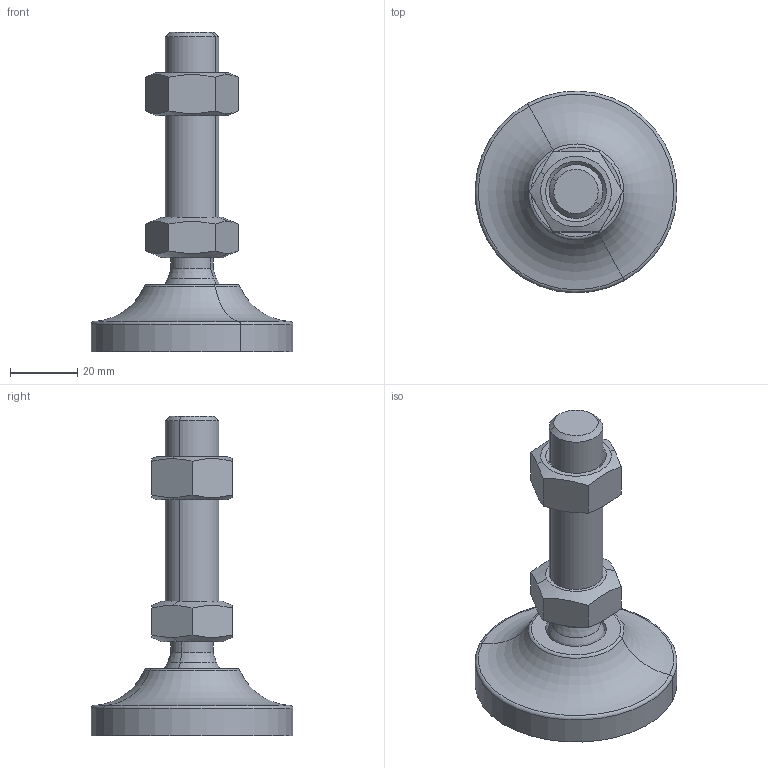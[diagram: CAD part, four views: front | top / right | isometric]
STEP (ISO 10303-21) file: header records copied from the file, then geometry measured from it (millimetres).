
FILE_DESCRIPTION(('CATIA V5 STEP Exchange'),'2;1');
FILE_NAME('C:\Users\ALI OZGUN\Desktop\alhan\saplama2\560602610.stp','2017-09-21T10:33:51+00:00',('none'),('none'),'CATIA Version 5 Release 21 GA (IN-10)','CATIA V5 STEP AP203','none');
FILE_SCHEMA(('CONFIG_CONTROL_DESIGN'));
Length unit declared in the file: millimetre
Products named in the file (1): 560602610
Bounding box: 59.98 x 59.98 x 95 mm (x, y, z)
Volume: 48546.5 mm3; surface area: 16446.9 mm2
Topology: 3 solids, 3 shells, 60 faces, 136 edges, 83 vertices
Faces by surface type: plane 20, cone 16, cylinder 14, torus 6, revolution 2, sphere 2
Entity records: 1870 total; most frequent: CARTESIAN_POINT 628, ORIENTED_EDGE 268, DIRECTION 186, EDGE_CURVE 134, AXIS2_PLACEMENT_3D 100, VERTEX_POINT 83, EDGE_LOOP 67, ADVANCED_FACE 60
